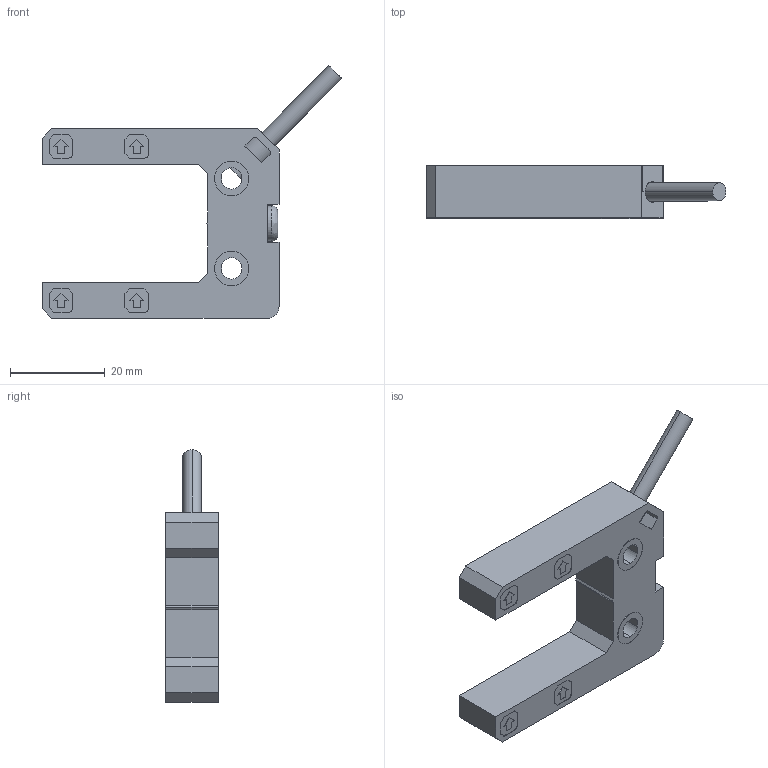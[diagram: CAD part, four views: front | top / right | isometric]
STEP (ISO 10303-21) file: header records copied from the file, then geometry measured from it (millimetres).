
FILE_DESCRIPTION (( 'STEP AP203' ), '1' );
FILE_NAME ('GE25.STEP', '2023-09-05T11:57:05', ( 'Windows User' ), ( 'P R C' ), 'SwSTEP 2.0', 'SolidWorks 2022', '' );
FILE_SCHEMA (( 'CONFIG_CONTROL_DESIGN' ));
Length unit declared in the file: millimetre
Products named in the file (1): GE25
Bounding box: 63.27 x 11.2 x 53.27 mm (x, y, z)
Surface area: 5849.9 mm2 (no closed solid volume)
Topology: 0 solids, 4 shells, 219 faces, 690 edges, 479 vertices
Faces by surface type: plane 170, cylinder 43, cone 4, bspline 2
Entity records: 7686 total; most frequent: CARTESIAN_POINT 1499, DIRECTION 1217, ORIENTED_EDGE 1187, EDGE_CURVE 690, LINE 591, VECTOR 591, VERTEX_POINT 479, AXIS2_PLACEMENT_3D 313
